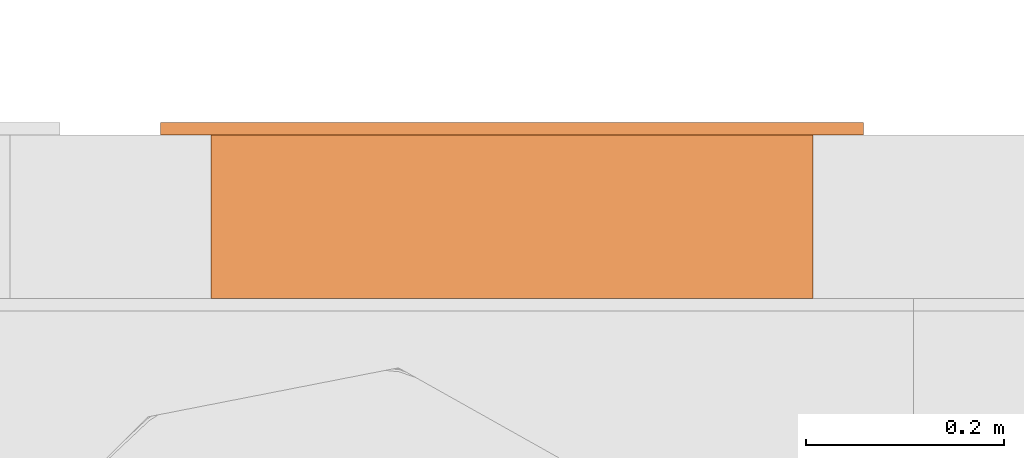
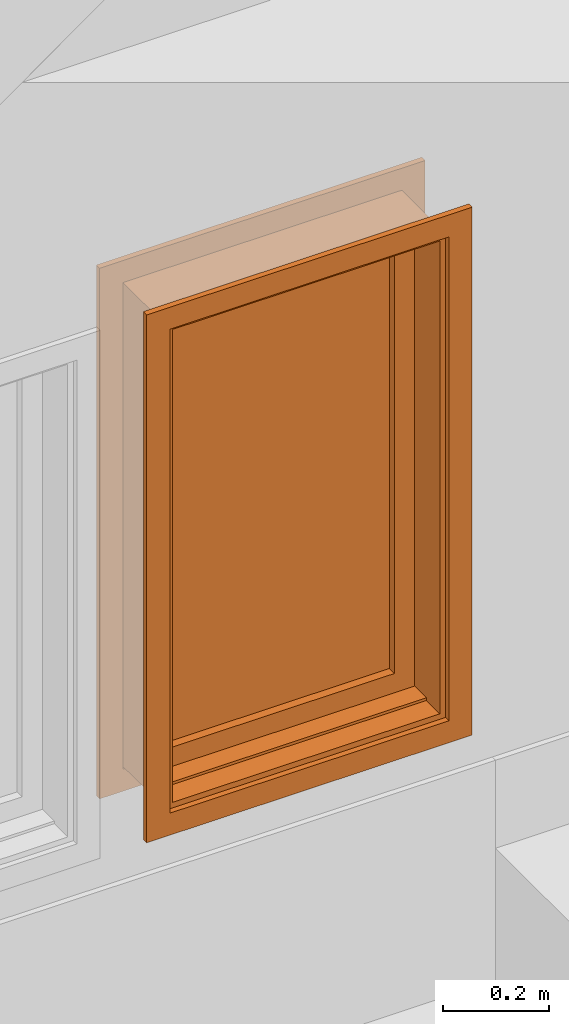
# One storey, part 64 of 103: 1 proxy.
"""IFC2X3 building model written with IfcOpenShell, lengths in inches."""

from ifc_helpers import new_model, entity, si_unit, converted_unit, derived_unit, money_unit, direction, frame, origin_with_axes, place, context, subcontext, project, spatial, faceted_brep, source, transform, mapped, type_object, element, save


model = new_model("IFC2X3")

# Units and contexts
model_context = context("Model", 3, precision=0.00039370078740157, world=origin_with_axes(), true_north=direction((0.0, 1.0)))
plan_context = context("Plan", 3, precision=0.00039370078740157, world=origin_with_axes(), true_north=direction((0.0, 1.0)))
body_context = subcontext(model_context, "Body", "Model", "MODEL_VIEW")
ifc_project = project(units=[converted_unit("LENGTHUNIT", "INCH", entity("IfcPositiveLengthMeasure", 0.0254), si_unit("LENGTHUNIT", "METRE"), dimensions=[1, 0, 0, 0, 0, 0, 0]), converted_unit("AREAUNIT", "SQUARE_FOOT", entity("IfcPositiveLengthMeasure", 0.09290304), si_unit("AREAUNIT", "SQUARE_METRE"), dimensions=[2, 0, 0, 0, 0, 0, 0]), si_unit("PLANEANGLEUNIT", "RADIAN"), si_unit("SOLIDANGLEUNIT", "STERADIAN"), money_unit("USD"), converted_unit("TIMEUNIT", "Year", entity("IfcTimeMeasure", 31557600.0), si_unit("TIMEUNIT", "SECOND"), dimensions=[0, 0, 1, 0, 0, 0, 0]), si_unit("MASSUNIT", "GRAM", prefix="KILO"), si_unit("THERMODYNAMICTEMPERATUREUNIT", "DEGREE_CELSIUS"), si_unit("LUMINOUSINTENSITYUNIT", "LUMEN"), si_unit("ENERGYUNIT", "JOULE", prefix="MEGA"), derived_unit("SPECIFICHEATCAPACITYUNIT", [(si_unit("ENERGYUNIT", "JOULE"), 1), (si_unit("MASSUNIT", "GRAM", prefix="KILO"), -1), (si_unit("THERMODYNAMICTEMPERATUREUNIT", "KELVIN"), -1)])], contexts=[model_context, plan_context])

# Site, building, storey
site_placement = place(None, origin_with_axes())
site = spatial("IfcSite", under=ifc_project, at=site_placement, Name="Site", CompositionType="ELEMENT")
building_placement = place(site_placement, origin_with_axes())
building = spatial("IfcBuilding", under=site, at=building_placement, Name="Building", CompositionType="ELEMENT")
storey_placement = place(building_placement, frame((0.0, 0.0, 127.9999999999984), z_axis=(0.0, 0.0, 1.0), x_axis=(1.0, 0.0, 0.0)))
storey = spatial("IfcBuildingStorey", under=building, at=storey_placement, Name="Second Floor", CompositionType="ELEMENT", Elevation=128.0)

# Proxy
building_element_proxy_type = type_object("IfcBuildingElementProxyType", Name="W Fixed", PredefinedType="NOTDEFINED")
shared_shape = source(origin_with_axes(), body_context, "Body", "Brep", [
    faceted_brep([(-11.99999999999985, -4.499999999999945, 0.0), (11.99999999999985, -4.499999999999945, 0.0), (11.99999999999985, -6.49999999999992, 0.0), (-11.99999999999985, -6.49999999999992, 0.0), (-11.99999999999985, -4.49999999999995, 43.99999999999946), (11.99999999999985, -4.49999999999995, 43.99999999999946), (-11.49999999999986, -4.499999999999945, 0.4999999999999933), (11.49999999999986, -4.499999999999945, 0.4999999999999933), (11.49999999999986, -4.49999999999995, 43.49999999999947), (-11.49999999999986, -4.49999999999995, 43.49999999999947), (11.99999999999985, -6.499999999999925, 43.99999999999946), (-11.99999999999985, -6.499999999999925, 43.99999999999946), (-11.49999999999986, -6.49999999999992, 0.4999999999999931), (-11.49999999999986, -6.499999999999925, 43.49999999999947), (11.49999999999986, -6.499999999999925, 43.49999999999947), (11.49999999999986, -6.49999999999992, 0.4999999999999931)], [[[0, 1, 2, 3]], [[0, 4, 5, 1], [6, 7, 8, 9]], [[1, 5, 10, 2]], [[3, 2, 10, 11], [12, 13, 14, 15]], [[4, 0, 3, 11]], [[5, 4, 11, 10]], [[7, 6, 12, 15]], [[8, 7, 15, 14]], [[9, 8, 14, 13]], [[6, 9, 13, 12]]]),
    faceted_brep([(-13.99999999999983, -6.999999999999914, -1.999999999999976), (-13.99999999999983, -6.499999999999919, -1.999999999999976), (-11.99999999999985, -6.49999999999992, 0.0), (-11.99999999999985, -6.999999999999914, 0.0), (-13.99999999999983, -6.999999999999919, 45.99999999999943), (-13.99999999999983, -6.499999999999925, 45.99999999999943), (-11.99999999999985, -6.499999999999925, 43.99999999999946), (-11.99999999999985, -6.999999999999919, 43.99999999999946)], [[[0, 1, 2, 3]], [[4, 5, 1, 0]], [[1, 5, 6, 2]], [[3, 2, 6, 7]], [[0, 3, 7, 4]], [[7, 6, 5, 4]]]),
    faceted_brep([(13.99999999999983, -6.999999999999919, 45.99999999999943), (13.99999999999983, -6.499999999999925, 45.99999999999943), (11.99999999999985, -6.499999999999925, 43.99999999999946), (11.99999999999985, -6.999999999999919, 43.99999999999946), (13.99999999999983, -6.999999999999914, -1.999999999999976), (13.99999999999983, -6.499999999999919, -1.999999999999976), (11.99999999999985, -6.49999999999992, 0.0), (11.99999999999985, -6.999999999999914, 0.0)], [[[0, 1, 2, 3]], [[4, 5, 1, 0]], [[1, 5, 6, 2]], [[3, 2, 6, 7]], [[0, 3, 7, 4]], [[7, 6, 5, 4]]]),
    faceted_brep([(13.99999999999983, -6.999999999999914, -1.999999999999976), (13.99999999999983, -6.499999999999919, -1.999999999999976), (11.99999999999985, -6.49999999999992, 0.0), (11.99999999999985, -6.999999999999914, 0.0), (-13.99999999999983, -6.999999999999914, -1.999999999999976), (-13.99999999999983, -6.499999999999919, -1.999999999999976), (-11.99999999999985, -6.49999999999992, 0.0), (-11.99999999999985, -6.999999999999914, 0.0)], [[[0, 1, 2, 3]], [[4, 5, 1, 0]], [[1, 5, 6, 2]], [[3, 2, 6, 7]], [[0, 3, 7, 4]], [[7, 6, 5, 4]]]),
    faceted_brep([(-13.99999999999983, -6.999999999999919, 45.99999999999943), (-13.99999999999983, -6.499999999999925, 45.99999999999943), (-11.99999999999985, -6.499999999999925, 43.99999999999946), (-11.99999999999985, -6.999999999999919, 43.99999999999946), (13.99999999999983, -6.999999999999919, 45.99999999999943), (13.99999999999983, -6.499999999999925, 45.99999999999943), (11.99999999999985, -6.499999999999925, 43.99999999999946), (11.99999999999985, -6.999999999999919, 43.99999999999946)], [[[0, 1, 2, 3]], [[4, 5, 1, 0]], [[1, 5, 6, 2]], [[3, 2, 6, 7]], [[0, 3, 7, 4]], [[7, 6, 5, 4]]]),
    faceted_brep([(-13.99999999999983, 0.4999999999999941, -2.249999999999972), (-11.99999999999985, 0.4999999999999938, -0.2499999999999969), (-11.99999999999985, 0.0, -0.249999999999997), (-13.99999999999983, 0.0, -2.249999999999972), (-13.99999999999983, 0.4999999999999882, 45.99999999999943), (-11.99999999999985, 0.4999999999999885, 43.99999999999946), (-11.99999999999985, 0.0, 43.99999999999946), (-13.99999999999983, 0.0, 45.99999999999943)], [[[0, 1, 2, 3]], [[0, 4, 5, 1]], [[1, 5, 6, 2]], [[3, 2, 6, 7]], [[4, 0, 3, 7]], [[5, 4, 7, 6]]]),
    faceted_brep([(13.99999999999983, 0.4999999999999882, 45.99999999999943), (11.99999999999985, 0.4999999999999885, 43.99999999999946), (11.99999999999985, 0.0, 43.99999999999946), (13.99999999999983, 0.0, 45.99999999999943), (13.99999999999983, 0.4999999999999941, -2.249999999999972), (11.99999999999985, 0.4999999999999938, -0.2499999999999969), (11.99999999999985, 0.0, -0.249999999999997), (13.99999999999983, 0.0, -2.249999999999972)], [[[0, 1, 2, 3]], [[0, 4, 5, 1]], [[1, 5, 6, 2]], [[3, 2, 6, 7]], [[4, 0, 3, 7]], [[5, 4, 7, 6]]]),
    faceted_brep([(13.99999999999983, 0.4999999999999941, -2.249999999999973), (11.99999999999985, 0.4999999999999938, -0.2499999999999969), (11.99999999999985, 0.0, -0.249999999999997), (13.99999999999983, 0.0, -2.249999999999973), (-13.99999999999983, 0.4999999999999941, -2.249999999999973), (-11.99999999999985, 0.4999999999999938, -0.2499999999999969), (-11.99999999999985, 0.0, -0.249999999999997), (-13.99999999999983, 0.0, -2.249999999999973)], [[[0, 1, 2, 3]], [[0, 4, 5, 1]], [[1, 5, 6, 2]], [[3, 2, 6, 7]], [[4, 0, 3, 7]], [[5, 4, 7, 6]]]),
    faceted_brep([(-13.99999999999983, 0.4999999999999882, 45.99999999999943), (-11.99999999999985, 0.4999999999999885, 43.99999999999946), (-11.99999999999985, 0.0, 43.99999999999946), (-13.99999999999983, 0.0, 45.99999999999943), (13.99999999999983, 0.4999999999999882, 45.99999999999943), (11.99999999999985, 0.4999999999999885, 43.99999999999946), (11.99999999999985, 0.0, 43.99999999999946), (13.99999999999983, 0.0, 45.99999999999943)], [[[0, 1, 2, 3]], [[0, 4, 5, 1]], [[1, 5, 6, 2]], [[3, 2, 6, 7]], [[4, 0, 3, 7]], [[5, 4, 7, 6]]]),
    faceted_brep([(-11.50039370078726, -4.499999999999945, 0.7539370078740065), (-11.50039370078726, -4.49999999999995, 43.49606299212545), (-11.99999999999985, -4.49999999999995, 43.49606299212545), (-11.99999999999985, -4.499999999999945, 0.7539370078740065), (-11.50039370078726, -2.749999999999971, 43.49606299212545), (-11.50039370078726, -2.749999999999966, 0.7539370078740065), (-11.74999999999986, -2.749999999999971, 43.49606299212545), (-11.74999999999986, 0.0, 43.49606299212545), (-11.99999999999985, 0.0, 43.49606299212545), (-11.99999999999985, 0.0, 0.7539370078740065), (-11.74999999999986, 0.0, 0.7539370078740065), (-11.74999999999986, -2.749999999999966, 0.7539370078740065)], [[[0, 1, 2, 3]], [[4, 1, 0, 5]], [[1, 4, 6, 7, 8, 2]], [[9, 3, 2, 8]], [[5, 0, 3, 9, 10, 11]], [[4, 5, 11, 6]], [[11, 10, 7, 6]], [[9, 8, 7, 10]]]),
    faceted_brep([(11.50039370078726, -2.749999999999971, 43.49606299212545), (11.50039370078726, -4.49999999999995, 43.49606299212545), (11.99999999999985, -4.49999999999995, 43.49606299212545), (11.99999999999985, 0.0, 43.49606299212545), (11.74999999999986, 0.0, 43.49606299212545), (11.74999999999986, -2.749999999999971, 43.49606299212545), (11.50039370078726, -4.499999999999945, 0.7539370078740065), (11.50039370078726, -2.749999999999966, 0.7539370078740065), (11.99999999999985, -4.499999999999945, 0.7539370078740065), (11.99999999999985, 0.0, 0.7539370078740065), (11.74999999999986, 0.0, 0.7539370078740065), (11.74999999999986, -2.749999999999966, 0.7539370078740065)], [[[0, 1, 2, 3, 4, 5]], [[6, 1, 0, 7]], [[1, 6, 8, 2]], [[3, 2, 8, 9]], [[3, 9, 10, 4]], [[11, 5, 4, 10]], [[7, 0, 5, 11]], [[6, 7, 11, 10, 9, 8]]]),
    faceted_brep([(11.50039370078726, -2.749999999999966, 0.7539370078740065), (11.50039370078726, -4.499999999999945, 0.7539370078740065), (11.99999999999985, -4.499999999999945, 0.7539370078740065), (11.99999999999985, 0.0, 0.7539370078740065), (11.74999999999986, 0.0, 0.7539370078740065), (11.74999999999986, -2.749999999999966, 0.7539370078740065), (11.50039370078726, -4.499999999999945, 0.7496062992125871), (11.50039370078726, -2.749999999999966, 0.7496062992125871), (-11.50039370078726, -4.499999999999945, 0.7496062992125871), (-11.50039370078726, -4.499999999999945, 0.7539370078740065), (-11.99999999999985, -4.499999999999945, 0.7539370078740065), (-11.99999999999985, -4.499999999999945, 0.0), (11.99999999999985, -4.499999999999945, 0.0), (11.99999999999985, 0.0, 0.0), (-11.99999999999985, 0.0, 0.0), (-11.99999999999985, 0.0, 0.7539370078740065), (-11.74999999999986, 0.0, 0.7539370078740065), (-11.74999999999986, 0.0, 0.4999999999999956), (11.74999999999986, 0.0, 0.4999999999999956), (11.74999999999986, -2.749999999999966, 0.4999999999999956), (-11.74999999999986, -2.749999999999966, 0.4999999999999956), (-11.74999999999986, -2.749999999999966, 0.7539370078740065), (-11.50039370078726, -2.749999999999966, 0.7539370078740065), (-11.50039370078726, -2.749999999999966, 0.7496062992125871)], [[[0, 1, 2, 3, 4, 5]], [[6, 1, 0, 7]], [[8, 9, 10, 11, 12, 2, 1, 6]], [[3, 2, 12, 13]], [[14, 15, 16, 17, 18, 4, 3, 13]], [[19, 5, 4, 18]], [[7, 0, 5, 19, 20, 21, 22, 23]], [[8, 6, 7, 23]], [[22, 9, 8, 23]], [[9, 22, 21, 16, 15, 10]], [[14, 11, 10, 15]], [[13, 12, 11, 14]], [[20, 17, 16, 21]], [[20, 19, 18, 17]]]),
    faceted_brep([(-11.50039370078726, -4.49999999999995, 43.49606299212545), (-11.50039370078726, -4.49999999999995, 43.50039370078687), (11.50039370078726, -4.49999999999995, 43.50039370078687), (11.50039370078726, -4.49999999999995, 43.49606299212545), (11.99999999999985, -4.49999999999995, 43.49606299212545), (11.99999999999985, -4.49999999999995, 43.99999999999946), (-11.99999999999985, -4.49999999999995, 43.99999999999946), (-11.99999999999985, -4.49999999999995, 43.49606299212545), (-11.50039370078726, -2.749999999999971, 43.49606299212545), (-11.50039370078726, -2.749999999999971, 43.50039370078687), (11.50039370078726, -2.749999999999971, 43.50039370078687), (11.50039370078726, -2.749999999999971, 43.49606299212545), (11.74999999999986, -2.749999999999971, 43.49606299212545), (11.74999999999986, 0.0, 43.49606299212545), (11.99999999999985, 0.0, 43.49606299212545), (11.99999999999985, 0.0, 43.99999999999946), (-11.99999999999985, 0.0, 43.99999999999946), (-11.99999999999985, 0.0, 43.49606299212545), (-11.74999999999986, 0.0, 43.49606299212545), (-11.74999999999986, -2.749999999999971, 43.49606299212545), (-11.74999999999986, -2.749999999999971, 43.74999999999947), (11.74999999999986, -2.749999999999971, 43.74999999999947), (11.74999999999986, 0.0, 43.74999999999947), (-11.74999999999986, 0.0, 43.74999999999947)], [[[0, 1, 2, 3, 4, 5, 6, 7]], [[1, 0, 8, 9]], [[2, 1, 9, 10]], [[3, 2, 10, 11]], [[3, 11, 12, 13, 14, 4]], [[15, 5, 4, 14]], [[16, 6, 5, 15]], [[17, 7, 6, 16]], [[8, 0, 7, 17, 18, 19]], [[9, 8, 19, 20, 21, 12, 11, 10]], [[12, 21, 22, 13]], [[13, 22, 23, 18, 17, 16, 15, 14]], [[20, 19, 18, 23]], [[21, 20, 23, 22]]]),
    faceted_brep([(-9.74999999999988, -2.749999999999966, 2.499999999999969), (-9.74999999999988, -1.874999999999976, 2.499999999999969), (-9.74999999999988, -1.874999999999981, 41.7499999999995), (-9.74999999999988, -2.749999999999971, 41.7499999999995), (-11.74999999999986, -2.749999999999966, 2.499999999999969), (-11.74999999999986, -1.874999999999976, 2.499999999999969), (-11.74999999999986, -1.874999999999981, 41.7499999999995), (-11.74999999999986, -2.749999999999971, 41.7499999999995)], [[[0, 1, 2, 3]], [[4, 5, 1, 0]], [[1, 5, 6, 2]], [[3, 2, 6, 7]], [[0, 3, 7, 4]], [[7, 6, 5, 4]]]),
    faceted_brep([(11.74999999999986, -2.749999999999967, 2.499999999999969), (11.74999999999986, -1.874999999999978, 2.499999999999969), (11.74999999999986, -1.874999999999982, 41.7499999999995), (11.74999999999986, -2.749999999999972, 41.7499999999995), (9.74999999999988, -2.749999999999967, 2.499999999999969), (9.74999999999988, -1.874999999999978, 2.499999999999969), (9.74999999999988, -1.874999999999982, 41.7499999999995), (9.74999999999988, -2.749999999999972, 41.7499999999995)], [[[0, 1, 2, 3]], [[4, 5, 1, 0]], [[1, 5, 6, 2]], [[3, 2, 6, 7]], [[0, 3, 7, 4]], [[7, 6, 5, 4]]]),
    faceted_brep([(11.74999999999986, -2.749999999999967, 0.4999999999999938), (11.74999999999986, -1.874999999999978, 0.4999999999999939), (11.74999999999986, -1.874999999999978, 2.499999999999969), (11.74999999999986, -2.749999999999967, 2.499999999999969), (-11.74999999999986, -2.749999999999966, 0.4999999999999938), (-11.74999999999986, -1.874999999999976, 0.4999999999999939), (-11.74999999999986, -1.874999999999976, 2.499999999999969), (-9.74999999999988, -1.874999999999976, 2.499999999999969), (-0.9999999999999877, -1.874999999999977, 2.499999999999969), (0.9999999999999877, -1.874999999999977, 2.499999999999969), (9.74999999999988, -1.874999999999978, 2.499999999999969), (9.74999999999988, -2.749999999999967, 2.499999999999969), (0.9999999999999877, -2.749999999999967, 2.499999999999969), (-0.9999999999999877, -2.749999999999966, 2.499999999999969), (-9.74999999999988, -2.749999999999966, 2.499999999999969), (-11.74999999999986, -2.749999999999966, 2.499999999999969)], [[[0, 1, 2, 3]], [[4, 5, 1, 0]], [[1, 5, 6, 7, 8, 9, 10, 2]], [[3, 2, 10, 11]], [[0, 3, 11, 12, 13, 14, 15, 4]], [[15, 6, 5, 4]], [[14, 7, 6, 15]], [[13, 8, 7, 14]], [[12, 9, 8, 13]], [[11, 10, 9, 12]]]),
    faceted_brep([(-11.74999999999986, -2.749999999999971, 43.74999999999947), (-11.74999999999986, -1.874999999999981, 43.74999999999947), (-11.74999999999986, -1.874999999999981, 41.7499999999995), (-11.74999999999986, -2.749999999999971, 41.7499999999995), (11.74999999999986, -2.749999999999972, 43.74999999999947), (11.74999999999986, -1.874999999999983, 43.74999999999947), (11.74999999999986, -1.874999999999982, 41.7499999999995), (9.74999999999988, -1.874999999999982, 41.7499999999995), (0.9999999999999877, -1.874999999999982, 41.7499999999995), (-0.9999999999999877, -1.874999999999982, 41.7499999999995), (-9.74999999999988, -1.874999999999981, 41.7499999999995), (-9.74999999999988, -2.749999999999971, 41.7499999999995), (-0.9999999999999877, -2.749999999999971, 41.7499999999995), (0.9999999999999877, -2.749999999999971, 41.7499999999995), (9.74999999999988, -2.749999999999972, 41.7499999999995), (11.74999999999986, -2.749999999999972, 41.7499999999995)], [[[0, 1, 2, 3]], [[4, 5, 1, 0]], [[1, 5, 6, 7, 8, 9, 10, 2]], [[3, 2, 10, 11]], [[0, 3, 11, 12, 13, 14, 15, 4]], [[15, 6, 5, 4]], [[14, 7, 6, 15]], [[13, 8, 7, 14]], [[12, 9, 8, 13]], [[11, 10, 9, 12]]]),
    faceted_brep([(-9.74999999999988, -1.874999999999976, 2.499999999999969), (-9.74999999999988, -0.9999999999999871, 2.499999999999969), (-9.74999999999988, -0.9999999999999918, 41.7499999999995), (-9.74999999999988, -1.874999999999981, 41.7499999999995), (-11.74999999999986, -1.874999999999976, 2.499999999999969), (-11.74999999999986, -0.9999999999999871, 2.499999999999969), (-11.74999999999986, -0.9999999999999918, 41.7499999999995), (-11.74999999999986, -1.874999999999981, 41.7499999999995)], [[[0, 1, 2, 3]], [[4, 5, 1, 0]], [[1, 5, 6, 2]], [[3, 2, 6, 7]], [[0, 3, 7, 4]], [[7, 6, 5, 4]]]),
    faceted_brep([(11.74999999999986, -1.874999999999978, 2.499999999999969), (11.74999999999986, -0.9999999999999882, 2.499999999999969), (11.74999999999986, -0.9999999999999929, 41.7499999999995), (11.74999999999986, -1.874999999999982, 41.7499999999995), (9.74999999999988, -1.874999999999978, 2.499999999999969), (9.74999999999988, -0.9999999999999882, 2.499999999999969), (9.74999999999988, -0.9999999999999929, 41.7499999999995), (9.74999999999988, -1.874999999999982, 41.7499999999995)], [[[0, 1, 2, 3]], [[4, 5, 1, 0]], [[1, 5, 6, 2]], [[3, 2, 6, 7]], [[0, 3, 7, 4]], [[7, 6, 5, 4]]]),
    faceted_brep([(11.74999999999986, -1.874999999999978, 0.4999999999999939), (11.74999999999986, -0.999999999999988, 0.499999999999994), (11.74999999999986, -0.9999999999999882, 2.499999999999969), (11.74999999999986, -1.874999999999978, 2.499999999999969), (-11.74999999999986, -1.874999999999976, 0.4999999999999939), (-11.74999999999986, -0.9999999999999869, 0.499999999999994), (-11.74999999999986, -0.9999999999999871, 2.499999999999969), (-9.74999999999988, -0.9999999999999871, 2.499999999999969), (-0.9999999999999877, -0.9999999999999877, 2.499999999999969), (0.9999999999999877, -0.9999999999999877, 2.499999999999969), (9.74999999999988, -0.9999999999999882, 2.499999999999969), (9.74999999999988, -1.874999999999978, 2.499999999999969), (0.9999999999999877, -1.874999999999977, 2.499999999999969), (-0.9999999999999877, -1.874999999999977, 2.499999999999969), (-9.74999999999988, -1.874999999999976, 2.499999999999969), (-11.74999999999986, -1.874999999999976, 2.499999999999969)], [[[0, 1, 2, 3]], [[4, 5, 1, 0]], [[1, 5, 6, 7, 8, 9, 10, 2]], [[3, 2, 10, 11]], [[0, 3, 11, 12, 13, 14, 15, 4]], [[15, 6, 5, 4]], [[14, 7, 6, 15]], [[13, 8, 7, 14]], [[12, 9, 8, 13]], [[11, 10, 9, 12]]]),
    faceted_brep([(-11.74999999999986, -1.874999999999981, 43.74999999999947), (-11.74999999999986, -0.9999999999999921, 43.74999999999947), (-11.74999999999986, -0.9999999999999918, 41.7499999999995), (-11.74999999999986, -1.874999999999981, 41.7499999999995), (11.74999999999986, -1.874999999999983, 43.74999999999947), (11.74999999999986, -0.9999999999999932, 43.74999999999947), (11.74999999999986, -0.9999999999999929, 41.7499999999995), (9.74999999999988, -0.9999999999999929, 41.7499999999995), (0.9999999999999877, -0.9999999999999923, 41.7499999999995), (-0.9999999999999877, -0.9999999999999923, 41.7499999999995), (-9.74999999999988, -0.9999999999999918, 41.7499999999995), (-9.74999999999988, -1.874999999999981, 41.7499999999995), (-0.9999999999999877, -1.874999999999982, 41.7499999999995), (0.9999999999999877, -1.874999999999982, 41.7499999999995), (9.74999999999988, -1.874999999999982, 41.7499999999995), (11.74999999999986, -1.874999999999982, 41.7499999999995)], [[[0, 1, 2, 3]], [[4, 5, 1, 0]], [[1, 5, 6, 7, 8, 9, 10, 2]], [[3, 2, 10, 11]], [[0, 3, 11, 12, 13, 14, 15, 4]], [[15, 6, 5, 4]], [[14, 7, 6, 15]], [[13, 8, 7, 14]], [[12, 9, 8, 13]], [[11, 10, 9, 12]]]),
    faceted_brep([(-9.74999999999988, -1.999999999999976, 2.499999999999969), (-9.74999999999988, -1.749999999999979, 2.499999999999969), (9.74999999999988, -1.749999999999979, 2.499999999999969), (9.74999999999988, -1.999999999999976, 2.499999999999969), (-9.74999999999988, -1.99999999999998, 41.7499999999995), (-9.74999999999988, -1.749999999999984, 41.7499999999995), (9.74999999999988, -1.749999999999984, 41.7499999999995), (9.74999999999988, -1.99999999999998, 41.7499999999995)], [[[0, 1, 2, 3]], [[4, 5, 1, 0]], [[1, 5, 6, 2]], [[3, 2, 6, 7]], [[0, 3, 7, 4]], [[7, 6, 5, 4]]]),
])
proxy_placement = place(storey_placement, frame((-32.99999336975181, 570.0000000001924, 48.99999999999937), z_axis=(0.0, 0.0, 1.0), x_axis=(1.0, 0.0, 0.0)))
element("IfcBuildingElementProxy", 1, at=proxy_placement, inside=storey, type_object=building_element_proxy_type, Name="WD - 002", context=body_context, shape_type="MappedRepresentation", body=[
    mapped(shared_shape, transform((11.99999999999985, 6.499999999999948, 0.0))),
])

save(model, "model.ifc")
